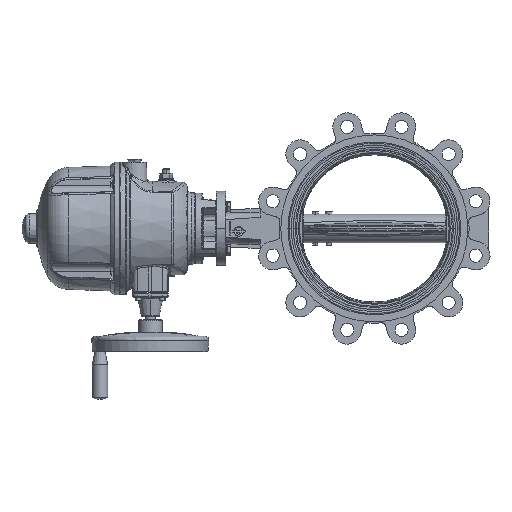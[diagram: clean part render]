
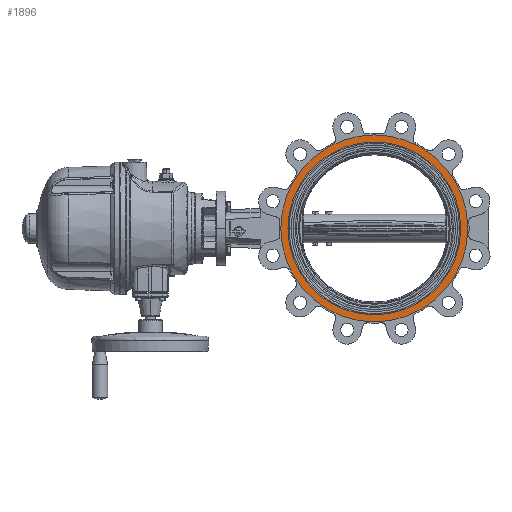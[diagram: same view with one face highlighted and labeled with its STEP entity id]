
A CAD part, left-side view. The second image highlights one B-rep face of the part: STEP entity #1896.
In plain terms, the highlighted planar face has unit normal (-1, 0, 0).
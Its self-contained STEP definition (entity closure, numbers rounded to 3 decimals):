
#739 = EDGE_CURVE ( 'NONE', #55223, #56422, #67511, .T. ) ;
#1808 = CARTESIAN_POINT ( 'NONE',  ( -33., 0., 146. ) ) ;
#1896 = ADVANCED_FACE ( 'NONE', ( #31629, #91494 ), #23479, .F. ) ;
#2653 = EDGE_LOOP ( 'NONE', ( #92869, #6626 ) ) ;
#3018 = ORIENTED_EDGE ( 'NONE', *, *, #32004, .F. ) ;
#3874 = CARTESIAN_POINT ( 'NONE',  ( -33., 0., 0. ) ) ;
#3933 = VERTEX_POINT ( 'NONE', #1808 ) ;
#6626 = ORIENTED_EDGE ( 'NONE', *, *, #50677, .T. ) ;
#9250 = DIRECTION ( 'NONE',  ( 1., 0., 0. ) ) ;
#10686 = DIRECTION ( 'NONE',  ( 0., 0., -1. ) ) ;
#11505 = CARTESIAN_POINT ( 'NONE',  ( -33., 0., 0. ) ) ;
#13663 = DIRECTION ( 'NONE',  ( 0., 0., -1. ) ) ;
#17218 = CARTESIAN_POINT ( 'NONE',  ( -33., 0., 0. ) ) ;
#17415 = DIRECTION ( 'NONE',  ( 0., 0., -1. ) ) ;
#23479 = PLANE ( 'NONE',  #39829 ) ;
#24539 = CARTESIAN_POINT ( 'NONE',  ( -33., 0., -158. ) ) ;
#25417 = AXIS2_PLACEMENT_3D ( 'NONE', #17218, #83071, #10686 ) ;
#31629 = FACE_BOUND ( 'NONE', #2653, .T. ) ;
#32004 = EDGE_CURVE ( 'NONE', #56422, #55223, #34512, .T. ) ;
#34512 = CIRCLE ( 'NONE', #100500, 158. ) ;
#39829 = AXIS2_PLACEMENT_3D ( 'NONE', #11505, #43555, #83897 ) ;
#43555 = DIRECTION ( 'NONE',  ( 1., 0., 0. ) ) ;
#47288 = DIRECTION ( 'NONE',  ( 1., 0., 0. ) ) ;
#47616 = DIRECTION ( 'NONE',  ( 0., 0., -1. ) ) ;
#48511 = EDGE_LOOP ( 'NONE', ( #68735, #3018 ) ) ;
#50677 = EDGE_CURVE ( 'NONE', #3933, #96317, #53166, .T. ) ;
#53166 = CIRCLE ( 'NONE', #25417, 146. ) ;
#54983 = CIRCLE ( 'NONE', #63737, 146. ) ;
#55223 = VERTEX_POINT ( 'NONE', #24539 ) ;
#56422 = VERTEX_POINT ( 'NONE', #78759 ) ;
#63737 = AXIS2_PLACEMENT_3D ( 'NONE', #3874, #47288, #13663 ) ;
#67511 = CIRCLE ( 'NONE', #77951, 158. ) ;
#68735 = ORIENTED_EDGE ( 'NONE', *, *, #739, .F. ) ;
#77951 = AXIS2_PLACEMENT_3D ( 'NONE', #105642, #9250, #17415 ) ;
#78759 = CARTESIAN_POINT ( 'NONE',  ( -33., 0., 158. ) ) ;
#83071 = DIRECTION ( 'NONE',  ( 1., 0., 0. ) ) ;
#83897 = DIRECTION ( 'NONE',  ( 0., 0., -1. ) ) ;
#85662 = CARTESIAN_POINT ( 'NONE',  ( -33., 0., -146. ) ) ;
#89410 = EDGE_CURVE ( 'NONE', #96317, #3933, #54983, .T. ) ;
#91494 = FACE_OUTER_BOUND ( 'NONE', #48511, .T. ) ;
#92869 = ORIENTED_EDGE ( 'NONE', *, *, #89410, .T. ) ;
#96317 = VERTEX_POINT ( 'NONE', #85662 ) ;
#100500 = AXIS2_PLACEMENT_3D ( 'NONE', #106358, #105823, #47616 ) ;
#105642 = CARTESIAN_POINT ( 'NONE',  ( -33., 0., 0. ) ) ;
#105823 = DIRECTION ( 'NONE',  ( 1., 0., 0. ) ) ;
#106358 = CARTESIAN_POINT ( 'NONE',  ( -33., 0., 0. ) ) ;
